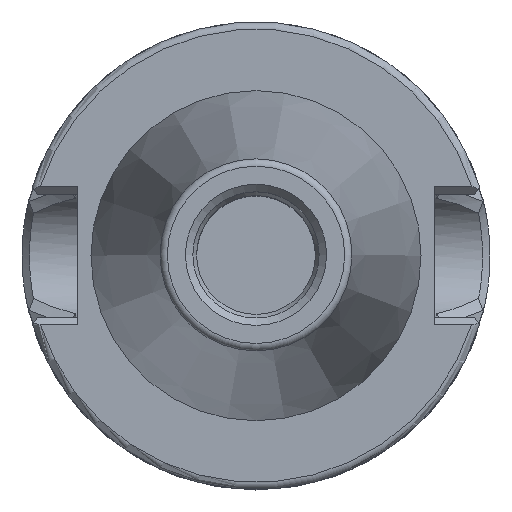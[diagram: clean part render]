
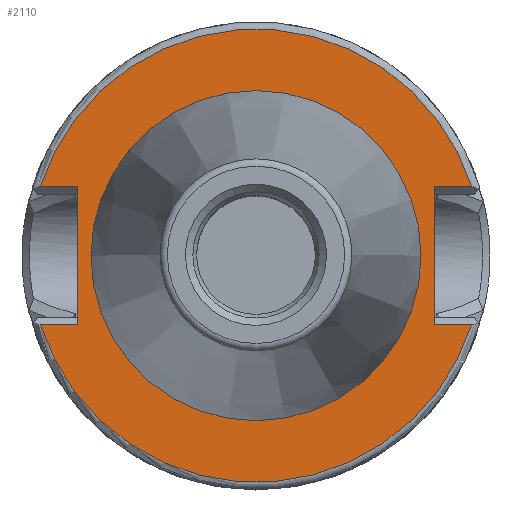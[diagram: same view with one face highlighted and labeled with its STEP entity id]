
A CAD part, top view. The second image highlights one B-rep face of the part: STEP entity #2110.
In plain terms, the highlighted planar face has unit normal (0, 0, 1).
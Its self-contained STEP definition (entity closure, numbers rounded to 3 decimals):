
#202=FACE_BOUND('',#701,.T.);
#231=PLANE('',#2365);
#276=LINE('',#3146,#394);
#283=LINE('',#3220,#401);
#289=LINE('',#3393,#407);
#303=LINE('',#4049,#421);
#309=LINE('',#4088,#427);
#310=LINE('',#4090,#428);
#394=VECTOR('',#2578,10.);
#401=VECTOR('',#2599,10.);
#407=VECTOR('',#2607,10.);
#421=VECTOR('',#2659,10.);
#427=VECTOR('',#2677,10.);
#428=VECTOR('',#2680,10.);
#578=FACE_OUTER_BOUND('',#700,.T.);
#700=EDGE_LOOP('',(#1658,#1659,#1660,#1661,#1662,#1663,#1664,#1665));
#701=EDGE_LOOP('',(#1666));
#799=CIRCLE('',#2326,30.5);
#802=CIRCLE('',#2333,30.5);
#812=CIRCLE('',#2366,22.);
#883=VERTEX_POINT('',#3078);
#884=VERTEX_POINT('',#3087);
#894=VERTEX_POINT('',#3145);
#897=VERTEX_POINT('',#3152);
#898=VERTEX_POINT('',#3161);
#908=VERTEX_POINT('',#3219);
#924=VERTEX_POINT('',#3391);
#969=VERTEX_POINT('',#4047);
#973=VERTEX_POINT('',#4091);
#1095=EDGE_CURVE('',#883,#884,#799,.T.);
#1108=EDGE_CURVE('',#884,#894,#276,.T.);
#1112=EDGE_CURVE('',#897,#898,#802,.T.);
#1125=EDGE_CURVE('',#898,#908,#283,.T.);
#1145=EDGE_CURVE('',#924,#883,#289,.T.);
#1216=EDGE_CURVE('',#969,#897,#303,.T.);
#1225=EDGE_CURVE('',#924,#908,#309,.T.);
#1226=EDGE_CURVE('',#969,#894,#310,.T.);
#1227=EDGE_CURVE('',#973,#973,#812,.T.);
#1658=ORIENTED_EDGE('',*,*,#1095,.F.);
#1659=ORIENTED_EDGE('',*,*,#1145,.F.);
#1660=ORIENTED_EDGE('',*,*,#1225,.T.);
#1661=ORIENTED_EDGE('',*,*,#1125,.F.);
#1662=ORIENTED_EDGE('',*,*,#1112,.F.);
#1663=ORIENTED_EDGE('',*,*,#1216,.F.);
#1664=ORIENTED_EDGE('',*,*,#1226,.T.);
#1665=ORIENTED_EDGE('',*,*,#1108,.F.);
#1666=ORIENTED_EDGE('',*,*,#1227,.F.);
#2110=ADVANCED_FACE('',(#578,#202),#231,.T.);
#2326=AXIS2_PLACEMENT_3D('',#3088,#2562,#2563);
#2333=AXIS2_PLACEMENT_3D('',#3162,#2583,#2584);
#2365=AXIS2_PLACEMENT_3D('',#4089,#2678,#2679);
#2366=AXIS2_PLACEMENT_3D('',#4092,#2681,#2682);
#2562=DIRECTION('center_axis',(0.,0.,-1.));
#2563=DIRECTION('ref_axis',(0.,1.,0.));
#2578=DIRECTION('',(-1.,0.,0.));
#2583=DIRECTION('center_axis',(0.,0.,-1.));
#2584=DIRECTION('ref_axis',(0.,-1.,0.));
#2599=DIRECTION('',(1.,0.,0.));
#2607=DIRECTION('',(-1.,0.,0.));
#2659=DIRECTION('',(1.,0.,0.));
#2677=DIRECTION('',(0.,-1.,0.));
#2678=DIRECTION('center_axis',(0.,0.,1.));
#2679=DIRECTION('ref_axis',(1.,0.,0.));
#2680=DIRECTION('',(0.,1.,0.));
#2681=DIRECTION('center_axis',(0.,0.,1.));
#2682=DIRECTION('ref_axis',(1.,0.,0.));
#3078=CARTESIAN_POINT('',(-29.048,9.3,-92.8));
#3087=CARTESIAN_POINT('',(29.048,9.3,-92.8));
#3088=CARTESIAN_POINT('Origin',(0.,0.,-92.8));
#3145=CARTESIAN_POINT('',(24.,9.3,-92.8));
#3146=CARTESIAN_POINT('',(4.75,9.3,-92.8));
#3152=CARTESIAN_POINT('',(29.048,-9.3,-92.8));
#3161=CARTESIAN_POINT('',(-29.048,-9.3,-92.8));
#3162=CARTESIAN_POINT('Origin',(0.,0.,-92.8));
#3219=CARTESIAN_POINT('',(-24.,-9.3,-92.8));
#3220=CARTESIAN_POINT('',(-26.75,-9.3,-92.8));
#3391=CARTESIAN_POINT('',(-24.,9.3,-92.8));
#3393=CARTESIAN_POINT('',(-26.75,9.3,-92.8));
#4047=CARTESIAN_POINT('',(24.,-9.3,-92.8));
#4049=CARTESIAN_POINT('',(4.75,-9.3,-92.8));
#4088=CARTESIAN_POINT('',(-24.,0.,-92.8));
#4089=CARTESIAN_POINT('Origin',(-22.,0.,-92.8));
#4090=CARTESIAN_POINT('',(24.,0.,-92.8));
#4091=CARTESIAN_POINT('',(22.,0.,-92.8));
#4092=CARTESIAN_POINT('Origin',(0.,0.,-92.8));
